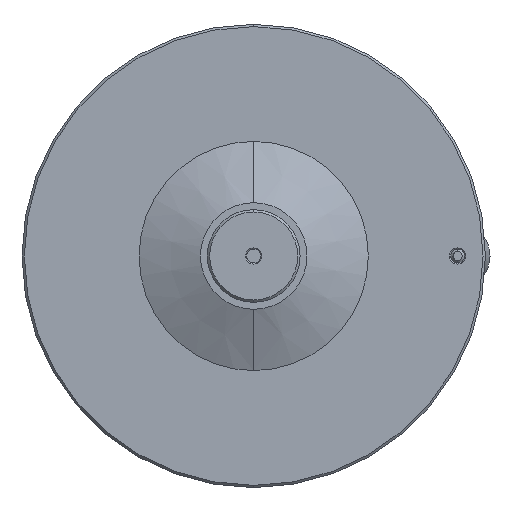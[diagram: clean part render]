
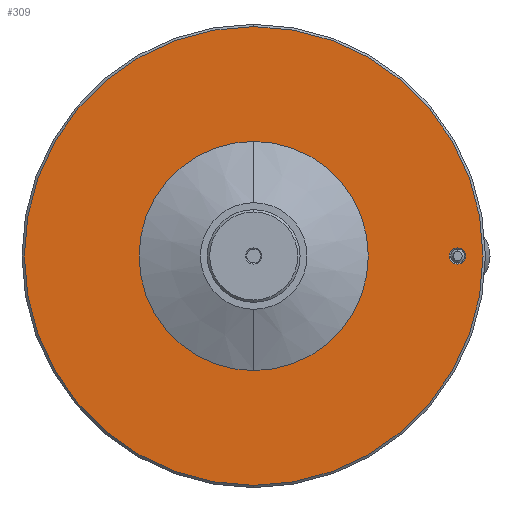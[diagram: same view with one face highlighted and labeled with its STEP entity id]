
A CAD part, front view. The second image highlights one B-rep face of the part: STEP entity #309.
In plain terms, the highlighted planar face has unit normal (0, -1, 0).
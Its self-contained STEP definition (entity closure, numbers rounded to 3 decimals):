
#2 = DIRECTION ( 'NONE',  ( 0., -1., 0. ) ) ;
#70 = CIRCLE ( 'NONE', #380, 49.473 ) ;
#80 = AXIS2_PLACEMENT_3D ( 'NONE', #81, #635, #647 ) ;
#81 = CARTESIAN_POINT ( 'NONE',  ( 88., -8., 0. ) ) ;
#86 = CARTESIAN_POINT ( 'NONE',  ( 88., -8., 3.5 ) ) ;
#118 = AXIS2_PLACEMENT_3D ( 'NONE', #514, #1090, #1687 ) ;
#122 = CIRCLE ( 'NONE', #1580, 99. ) ;
#195 = DIRECTION ( 'NONE',  ( 0., 1., 0. ) ) ;
#234 = ORIENTED_EDGE ( 'NONE', *, *, #324, .T. ) ;
#241 = CARTESIAN_POINT ( 'NONE',  ( 0., -8., 99. ) ) ;
#247 = DIRECTION ( 'NONE',  ( 0., 0., 1. ) ) ;
#265 = EDGE_CURVE ( 'NONE', #465, #1120, #705, .T. ) ;
#309 = ADVANCED_FACE ( 'NONE', ( #1722, #1081, #1766 ), #1497, .T. ) ;
#324 = EDGE_CURVE ( 'NONE', #750, #1407, #1507, .T. ) ;
#334 = DIRECTION ( 'NONE',  ( 0., 1., 0. ) ) ;
#337 = DIRECTION ( 'NONE',  ( 0., 0., 1. ) ) ;
#348 = ORIENTED_EDGE ( 'NONE', *, *, #791, .T. ) ;
#380 = AXIS2_PLACEMENT_3D ( 'NONE', #397, #1393, #247 ) ;
#383 = DIRECTION ( 'NONE',  ( 0., -1., 0. ) ) ;
#393 = DIRECTION ( 'NONE',  ( 0., 0., -1. ) ) ;
#395 = EDGE_LOOP ( 'NONE', ( #1721, #680 ) ) ;
#397 = CARTESIAN_POINT ( 'NONE',  ( 0., -8., 0. ) ) ;
#425 = CARTESIAN_POINT ( 'NONE',  ( 0., -8., 0. ) ) ;
#465 = VERTEX_POINT ( 'NONE', #86 ) ;
#514 = CARTESIAN_POINT ( 'NONE',  ( 0., -8., 49.473 ) ) ;
#531 = CARTESIAN_POINT ( 'NONE',  ( 88., -8., -3.5 ) ) ;
#635 = DIRECTION ( 'NONE',  ( 0., 1., 0. ) ) ;
#641 = CIRCLE ( 'NONE', #1748, 49.473 ) ;
#647 = DIRECTION ( 'NONE',  ( 0., 0., -1. ) ) ;
#680 = ORIENTED_EDGE ( 'NONE', *, *, #265, .T. ) ;
#705 = CIRCLE ( 'NONE', #80, 3.5 ) ;
#750 = VERTEX_POINT ( 'NONE', #1443 ) ;
#791 = EDGE_CURVE ( 'NONE', #1407, #750, #122, .T. ) ;
#810 = CARTESIAN_POINT ( 'NONE',  ( 0., -8., 0. ) ) ;
#910 = CARTESIAN_POINT ( 'NONE',  ( 0., -8., 0. ) ) ;
#960 = EDGE_CURVE ( 'NONE', #1448, #1630, #641, .T. ) ;
#975 = EDGE_LOOP ( 'NONE', ( #995, #987 ) ) ;
#987 = ORIENTED_EDGE ( 'NONE', *, *, #960, .T. ) ;
#995 = ORIENTED_EDGE ( 'NONE', *, *, #1416, .T. ) ;
#1002 = EDGE_LOOP ( 'NONE', ( #348, #234 ) ) ;
#1081 = FACE_OUTER_BOUND ( 'NONE', #1002, .T. ) ;
#1083 = EDGE_CURVE ( 'NONE', #1120, #465, #1450, .T. ) ;
#1090 = DIRECTION ( 'NONE',  ( 0., -1., 0. ) ) ;
#1103 = CARTESIAN_POINT ( 'NONE',  ( 0., -8., -49.473 ) ) ;
#1109 = AXIS2_PLACEMENT_3D ( 'NONE', #810, #383, #393 ) ;
#1120 = VERTEX_POINT ( 'NONE', #531 ) ;
#1139 = DIRECTION ( 'NONE',  ( 0., 0., -1. ) ) ;
#1162 = CARTESIAN_POINT ( 'NONE',  ( 0., -8., 49.473 ) ) ;
#1184 = CARTESIAN_POINT ( 'NONE',  ( 88., -8., 0. ) ) ;
#1383 = DIRECTION ( 'NONE',  ( 0., 0., -1. ) ) ;
#1393 = DIRECTION ( 'NONE',  ( 0., 1., 0. ) ) ;
#1407 = VERTEX_POINT ( 'NONE', #241 ) ;
#1416 = EDGE_CURVE ( 'NONE', #1630, #1448, #70, .T. ) ;
#1443 = CARTESIAN_POINT ( 'NONE',  ( 0., -8., -99. ) ) ;
#1448 = VERTEX_POINT ( 'NONE', #1103 ) ;
#1450 = CIRCLE ( 'NONE', #1481, 3.5 ) ;
#1481 = AXIS2_PLACEMENT_3D ( 'NONE', #1184, #334, #1383 ) ;
#1497 = PLANE ( 'NONE',  #118 ) ;
#1507 = CIRCLE ( 'NONE', #1109, 99. ) ;
#1580 = AXIS2_PLACEMENT_3D ( 'NONE', #425, #2, #1139 ) ;
#1630 = VERTEX_POINT ( 'NONE', #1162 ) ;
#1687 = DIRECTION ( 'NONE',  ( 0., 0., -1. ) ) ;
#1721 = ORIENTED_EDGE ( 'NONE', *, *, #1083, .T. ) ;
#1722 = FACE_BOUND ( 'NONE', #395, .T. ) ;
#1748 = AXIS2_PLACEMENT_3D ( 'NONE', #910, #195, #337 ) ;
#1766 = FACE_BOUND ( 'NONE', #975, .T. ) ;
